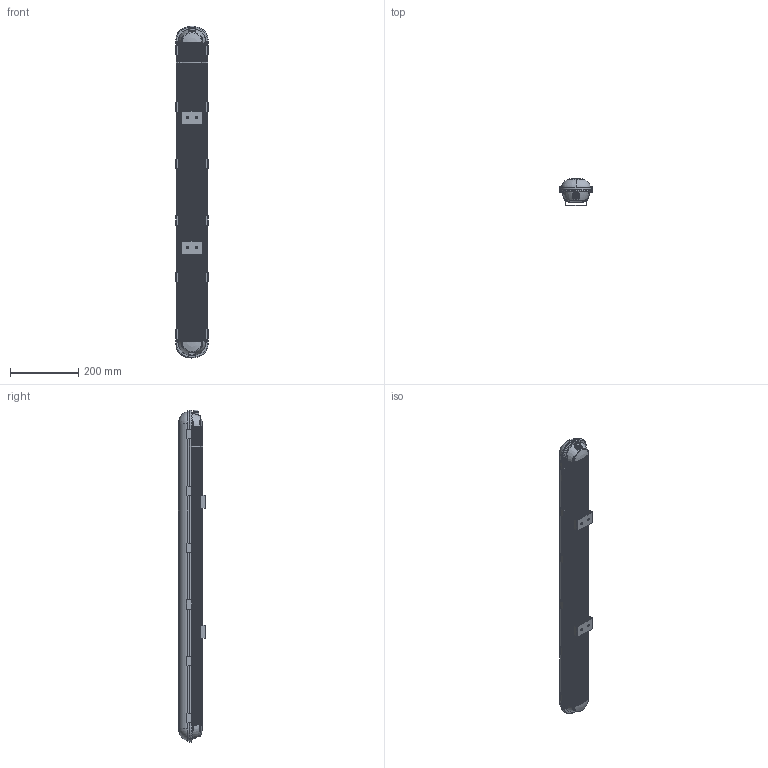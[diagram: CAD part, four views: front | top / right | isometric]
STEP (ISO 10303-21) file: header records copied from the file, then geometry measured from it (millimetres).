
FILE_DESCRIPTION(('STEP AP203'), '1');
FILE_NAME('Àëþìî Íîðìè 35Âò', '', ('UNSPECIFIED'), ('UNSPECIFIED'), 'ASCON STEP Converter 1.6', 'ASCON Math Kernel', '');
FILE_SCHEMA(('CONFIG_CONTROL_DESIGN'));
Length unit declared in the file: millimetre
Products named in the file (12): PGM7
Assembly tree (21 placements, depth 2):
  (unnamed)
    (unnamed)
    (unnamed)
    (unnamed)
    (unnamed)
    (unnamed)
    (unnamed)
    (unnamed)
    (unnamed)  x6
    (unnamed)  x6
    (unnamed)
    PGM7
Bounding box: 95 x 80.65 x 970.87 mm (x, y, z)
Volume: 2187751.8 mm3; surface area: 617828.9 mm2
Topology: 21 solids, 21 shells, 1247 faces, 3289 edges, 2095 vertices
Faces by surface type: bspline 595, cylinder 436, torus 167, plane 22, cone 13, extrusion 12, sphere 2
Full cylindrical faces by diameter (mm): 2.123 x4, 2.547 x4, 6.5 x2, 15.2 x2
Entity records: 70921 total; most frequent: CARTESIAN_POINT 40572, ORIENTED_EDGE 4974, DIRECTION 4227, EDGE_CURVE 2487, VERTEX_POINT 1573, AXIS2_PLACEMENT_3D 1474, VECTOR 1279, LINE 1267
